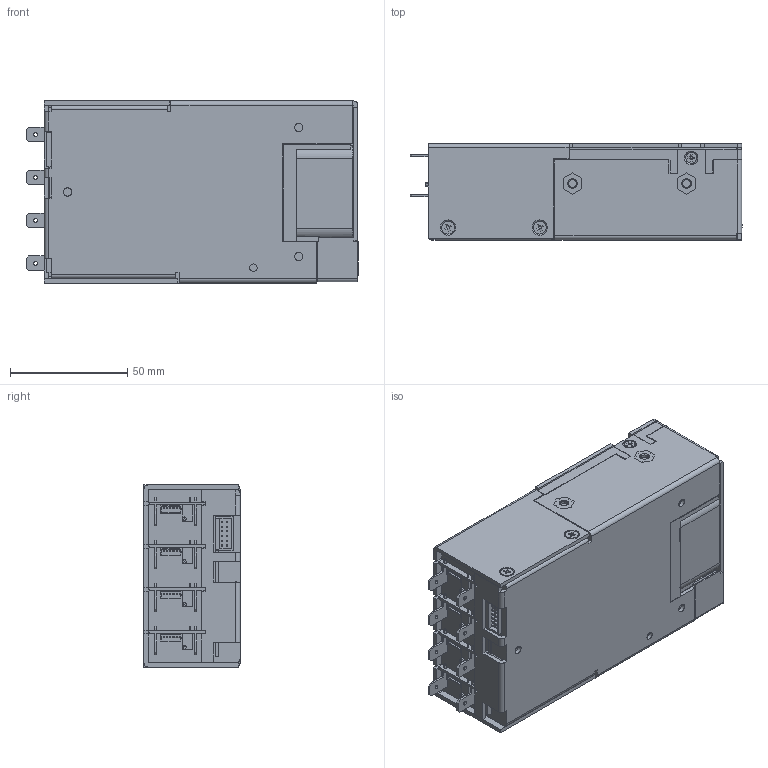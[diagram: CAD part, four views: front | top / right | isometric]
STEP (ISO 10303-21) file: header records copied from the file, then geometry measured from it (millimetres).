
FILE_DESCRIPTION (( 'STEP AP214' ), '1' );
FILE_NAME ('NEVO600 3D Public Facing Drawing 19-11-2020.STEP', '2020-11-19T16:45:43', ( '' ), ( '' ), 'SwSTEP 2.0', 'SolidWorks 2020', '' );
FILE_SCHEMA (( 'AUTOMOTIVE_DESIGN' ));
Length unit declared in the file: millimetre
Products named in the file (1): NEVO600 3D Public Facing Drawing 19-11-2020
Bounding box: 141.65 x 41.01 x 77.7 mm (x, y, z)
Surface area: 63873.7 mm2 (no closed solid volume)
Topology: 0 solids, 13 shells, 1523 faces, 4129 edges, 2674 vertices
Faces by surface type: plane 1082, cylinder 272, cone 117, bspline 34, torus 18
Entity records: 51172 total; most frequent: CARTESIAN_POINT 13001, ORIENTED_EDGE 8206, DIRECTION 7391, EDGE_CURVE 4111, LINE 3127, VECTOR 3127, VERTEX_POINT 2667, AXIS2_PLACEMENT_3D 2132
